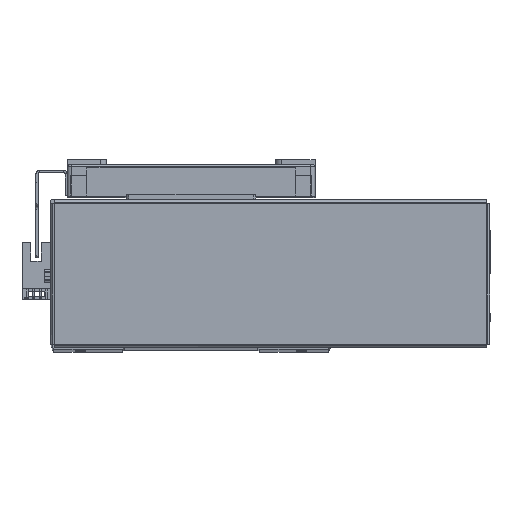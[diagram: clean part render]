
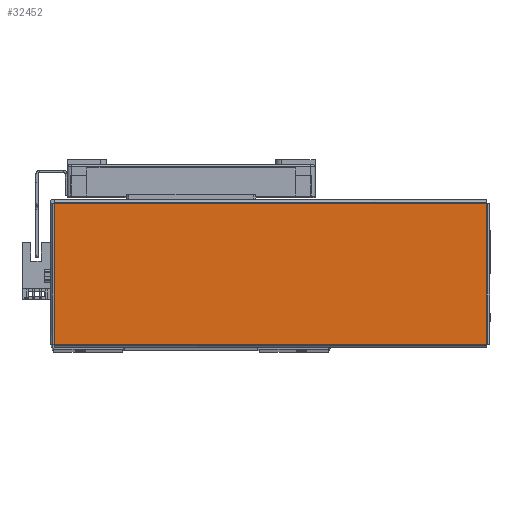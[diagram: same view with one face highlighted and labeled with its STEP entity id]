
A CAD part, top view. The second image highlights one B-rep face of the part: STEP entity #32452.
In plain terms, the highlighted planar face has unit normal (0, 0, 1) as drawn and (0, -1, 0) by its records, which use the part's own axes.
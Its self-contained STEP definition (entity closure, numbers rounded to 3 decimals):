
#4977 = ORIENTED_EDGE ( 'NONE', *, *, #17774, .T. ) ;
#5051 = ORIENTED_EDGE ( 'NONE', *, *, #17675, .T. ) ;
#5074 = ORIENTED_EDGE ( 'NONE', *, *, #17722, .T. ) ;
#5076 = ORIENTED_EDGE ( 'NONE', *, *, #17789, .T. ) ;
#16323 = EDGE_LOOP ( 'NONE', ( #5051, #5076, #5074, #4977 ) ) ;
#17675 = EDGE_CURVE ( 'NONE', #22679, #22634, #38048, .T. ) ;
#17722 = EDGE_CURVE ( 'NONE', #22734, #22645, #38085, .T. ) ;
#17774 = EDGE_CURVE ( 'NONE', #22645, #22679, #38159, .T. ) ;
#17789 = EDGE_CURVE ( 'NONE', #22634, #22734, #38169, .T. ) ;
#22634 = VERTEX_POINT ( 'NONE', #51247 ) ;
#22645 = VERTEX_POINT ( 'NONE', #51252 ) ;
#22679 = VERTEX_POINT ( 'NONE', #50249 ) ;
#22734 = VERTEX_POINT ( 'NONE', #52633 ) ;
#32452 = ADVANCED_FACE ( 'NONE', ( #59510 ), #60921, .F. ) ;
#38017 = VECTOR ( 'NONE', #41501, 1000. ) ;
#38048 = LINE ( 'NONE', #41496, #38017 ) ;
#38085 = LINE ( 'NONE', #41644, #38092 ) ;
#38092 = VECTOR ( 'NONE', #41634, 1000. ) ;
#38159 = LINE ( 'NONE', #41771, #38162 ) ;
#38162 = VECTOR ( 'NONE', #41776, 1000. ) ;
#38169 = LINE ( 'NONE', #41824, #38184 ) ;
#38184 = VECTOR ( 'NONE', #41813, 1000. ) ;
#41496 = CARTESIAN_POINT ( 'NONE',  ( 103.793, -1., 33.763 ) ) ;
#41501 = DIRECTION ( 'NONE',  ( -1., 0., 0. ) ) ;
#41634 = DIRECTION ( 'NONE',  ( 1., 0., 0. ) ) ;
#41644 = CARTESIAN_POINT ( 'NONE',  ( -103.793, -1., -33.763 ) ) ;
#41771 = CARTESIAN_POINT ( 'NONE',  ( 103.763, -1., -33.793 ) ) ;
#41776 = DIRECTION ( 'NONE',  ( 0., 0., 1. ) ) ;
#41813 = DIRECTION ( 'NONE',  ( 0., 0., -1. ) ) ;
#41824 = CARTESIAN_POINT ( 'NONE',  ( -103.763, -1., 33.793 ) ) ;
#50249 = CARTESIAN_POINT ( 'NONE',  ( 103.763, -1., 33.763 ) ) ;
#51247 = CARTESIAN_POINT ( 'NONE',  ( -103.763, -1., 33.763 ) ) ;
#51252 = CARTESIAN_POINT ( 'NONE',  ( 103.763, -1., -33.763 ) ) ;
#52633 = CARTESIAN_POINT ( 'NONE',  ( -103.763, -1., -33.763 ) ) ;
#54717 = AXIS2_PLACEMENT_3D ( 'NONE', #60913, #60929, #60927 ) ;
#59510 = FACE_OUTER_BOUND ( 'NONE', #16323, .T. ) ;
#60913 = CARTESIAN_POINT ( 'NONE',  ( 0., -1., 0. ) ) ;
#60921 = PLANE ( 'NONE',  #54717 ) ;
#60927 = DIRECTION ( 'NONE',  ( 0., 0., 1. ) ) ;
#60929 = DIRECTION ( 'NONE',  ( 0., 1., 0. ) ) ;
